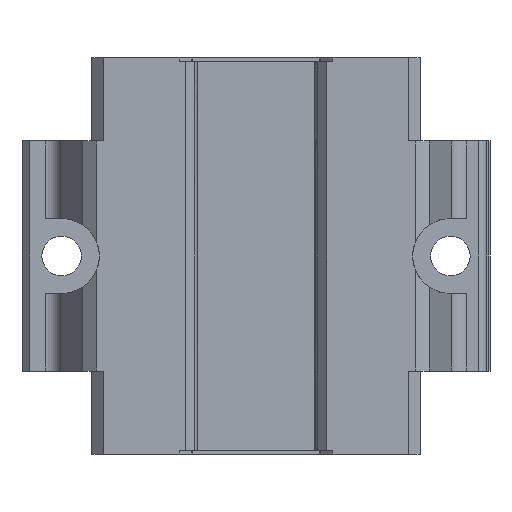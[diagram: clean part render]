
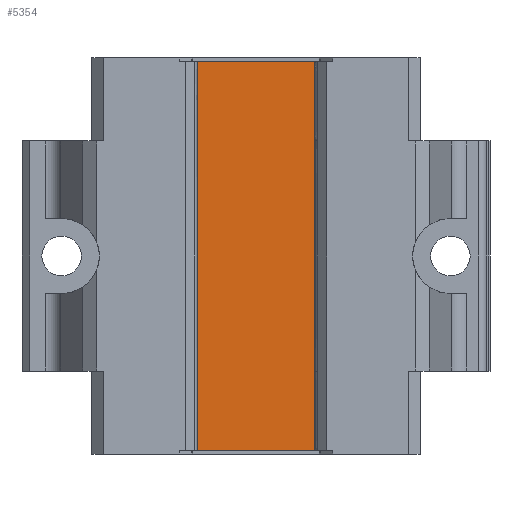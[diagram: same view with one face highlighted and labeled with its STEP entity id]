
A CAD part, front view. The second image highlights one B-rep face of the part: STEP entity #5354.
In plain terms, the highlighted planar face has unit normal (0, -1, 0).
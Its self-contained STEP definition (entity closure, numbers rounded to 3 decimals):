
#1479=DIRECTION('',(1.,0.,0.));
#1480=VECTOR('',#1479,16.61);
#1481=CARTESIAN_POINT('',(-8.305,-0.07,-10.));
#1482=LINE('',#1481,#1480);
#1761=DIRECTION('',(0.,0.,1.));
#1762=VECTOR('',#1761,49.);
#1763=CARTESIAN_POINT('',(-8.305,-0.07,-10.));
#1764=LINE('',#1763,#1762);
#1765=DIRECTION('',(1.,0.,0.));
#1766=VECTOR('',#1765,16.61);
#1767=CARTESIAN_POINT('',(-8.305,-0.07,39.));
#1768=LINE('',#1767,#1766);
#1769=DIRECTION('',(0.,0.,1.));
#1770=VECTOR('',#1769,49.);
#1771=CARTESIAN_POINT('',(8.305,-0.07,-10.));
#1772=LINE('',#1771,#1770);
#3243=CARTESIAN_POINT('',(8.305,-0.07,39.));
#3244=VERTEX_POINT('',#3243);
#3245=CARTESIAN_POINT('',(-8.305,-0.07,39.));
#3246=VERTEX_POINT('',#3245);
#3273=CARTESIAN_POINT('',(-8.305,-0.07,-10.));
#3274=VERTEX_POINT('',#3273);
#3275=CARTESIAN_POINT('',(8.305,-0.07,-10.));
#3276=VERTEX_POINT('',#3275);
#5342=CARTESIAN_POINT('',(8.305,-0.07,-10.));
#5343=DIRECTION('',(0.,-1.,0.));
#5344=DIRECTION('',(-1.,0.,0.));
#5345=AXIS2_PLACEMENT_3D('',#5342,#5343,#5344);
#5346=PLANE('',#5345);
#5347=ORIENTED_EDGE('',*,*,#5336,.T.);
#5348=ORIENTED_EDGE('',*,*,#4954,.T.);
#5350=ORIENTED_EDGE('',*,*,#5349,.F.);
#5351=ORIENTED_EDGE('',*,*,#5073,.F.);
#5352=EDGE_LOOP('',(#5347,#5348,#5350,#5351));
#5353=FACE_OUTER_BOUND('',#5352,.F.);
#5354=ADVANCED_FACE('',(#5353),#5346,.T.);
#4954=EDGE_CURVE('',#3246,#3244,#1768,.T.);
#5073=EDGE_CURVE('',#3274,#3276,#1482,.T.);
#5336=EDGE_CURVE('',#3274,#3246,#1764,.T.);
#5349=EDGE_CURVE('',#3276,#3244,#1772,.T.);
